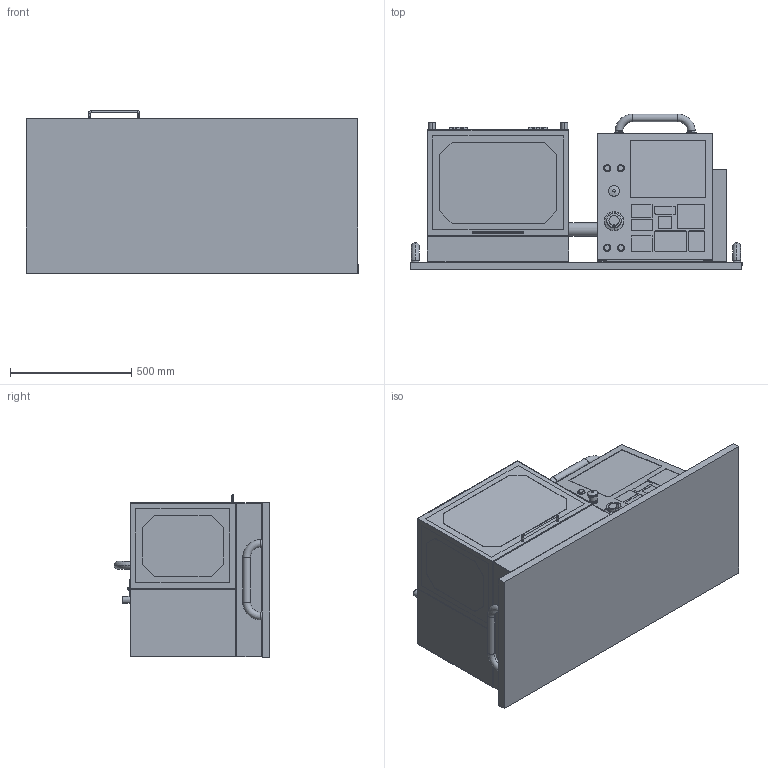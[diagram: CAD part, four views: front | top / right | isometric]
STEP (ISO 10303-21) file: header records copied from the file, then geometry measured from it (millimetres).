
FILE_DESCRIPTION (( 'STEP AP203' ), '1' );
FILE_NAME ('10000257306 Desktop Mill Master Assembly.STEP', '2024-04-19T16:38:02', ( '' ), ( '' ), 'SwSTEP 2.0', 'SolidWorks 2022', '' );
FILE_SCHEMA (( 'CONFIG_CONTROL_DESIGN' ));
Length unit declared in the file: inch
Products named in the file (9): 10000257306 Desktop Mill Z Axis Assembly; 10000257306 Desktop Mill Table Assembly; 10000257306 Desktop Mill Master Assembly; 10000261264 control panel-1; 10000257306 Desktop Mill Vice Assembly; 10000257306 Desktop Mill Y Axis Assembly; 10000257306 Desktop Mill X Axis Assembly; 10000257306 Desktop Mill Base assembly; 10000257306 Desktop Mill lid assembly
Assembly tree (8 placements, depth 2):
  10000257306 Desktop Mill Master Assembly
    10000257306 Desktop Mill lid assembly
    10000257306 Desktop Mill Table Assembly
    10000257306 Desktop Mill Vice Assembly
    10000257306 Desktop Mill Y Axis Assembly
    10000257306 Desktop Mill X Axis Assembly
    10000257306 Desktop Mill Z Axis Assembly
    10000261264 control panel-1
    10000257306 Desktop Mill Base assembly
Bounding box: 1371.6 x 643.57 x 671.37 mm (x, y, z)
Volume: 116900436.7 mm3; surface area: 8748775.5 mm2
Topology: 15 solids, 18 shells, 1972 faces, 5290 edges, 3433 vertices
Faces by surface type: plane 1294, cylinder 593, bspline 35, torus 26, cone 24
Entity records: 69468 total; most frequent: CARTESIAN_POINT 19128, ORIENTED_EDGE 10556, DIRECTION 9929, EDGE_CURVE 5278, LINE 3923, VECTOR 3923, VERTEX_POINT 3433, AXIS2_PLACEMENT_3D 3003
